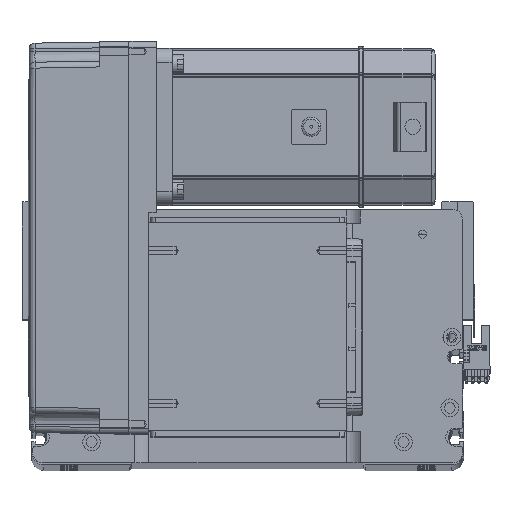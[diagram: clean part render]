
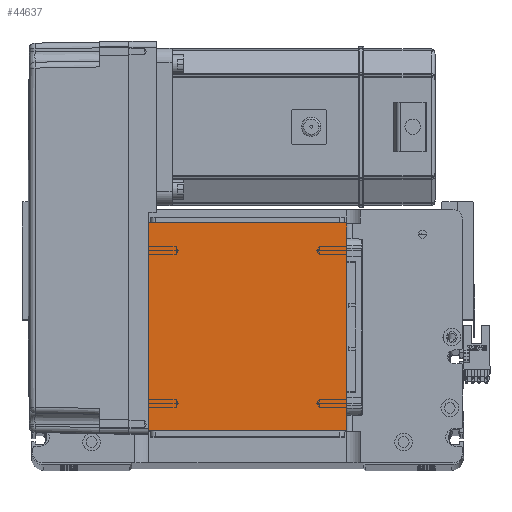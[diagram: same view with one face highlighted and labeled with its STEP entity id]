
A CAD part, top view. The second image highlights one B-rep face of the part: STEP entity #44637.
In plain terms, the highlighted planar face has unit normal (0, 0, 1).
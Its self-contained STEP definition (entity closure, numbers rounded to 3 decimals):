
#2134 = ORIENTED_EDGE ( 'NONE', *, *, #51821, .T. ) ;
#2508 = CARTESIAN_POINT ( 'NONE',  ( -50.5, 122., 115. ) ) ;
#3297 = DIRECTION ( 'NONE',  ( 0., 0., 1. ) ) ;
#7462 = EDGE_LOOP ( 'NONE', ( #20937, #2134, #21993, #34977 ) ) ;
#11493 = VERTEX_POINT ( 'NONE', #40656 ) ;
#14032 = LINE ( 'NONE', #27915, #47415 ) ;
#14936 = VECTOR ( 'NONE', #42336, 1000. ) ;
#17689 = LINE ( 'NONE', #21383, #42537 ) ;
#18059 = CARTESIAN_POINT ( 'NONE',  ( -50.5, 16., 115. ) ) ;
#18656 = VERTEX_POINT ( 'NONE', #18059 ) ;
#20937 = ORIENTED_EDGE ( 'NONE', *, *, #42386, .T. ) ;
#21383 = CARTESIAN_POINT ( 'NONE',  ( -50.5, 122., 115. ) ) ;
#21993 = ORIENTED_EDGE ( 'NONE', *, *, #53850, .T. ) ;
#24615 = CARTESIAN_POINT ( 'NONE',  ( 50.5, 122., 115. ) ) ;
#27357 = LINE ( 'NONE', #42879, #14936 ) ;
#27915 = CARTESIAN_POINT ( 'NONE',  ( 50.5, 122., 115. ) ) ;
#30600 = DIRECTION ( 'NONE',  ( -1., 0., 0. ) ) ;
#33076 = FACE_OUTER_BOUND ( 'NONE', #7462, .T. ) ;
#33385 = LINE ( 'NONE', #2508, #47149 ) ;
#34977 = ORIENTED_EDGE ( 'NONE', *, *, #42106, .T. ) ;
#37613 = VERTEX_POINT ( 'NONE', #37906 ) ;
#37906 = CARTESIAN_POINT ( 'NONE',  ( -50.5, 122., 115. ) ) ;
#37960 = VERTEX_POINT ( 'NONE', #24615 ) ;
#40656 = CARTESIAN_POINT ( 'NONE',  ( 50.5, 16., 115. ) ) ;
#40778 = CARTESIAN_POINT ( 'NONE',  ( 0., 0., 115. ) ) ;
#42106 = EDGE_CURVE ( 'NONE', #37960, #37613, #33385, .T. ) ;
#42336 = DIRECTION ( 'NONE',  ( 1., 0., 0. ) ) ;
#42386 = EDGE_CURVE ( 'NONE', #37613, #18656, #17689, .T. ) ;
#42537 = VECTOR ( 'NONE', #53693, 1000. ) ;
#42684 = AXIS2_PLACEMENT_3D ( 'NONE', #40778, #3297, #48678 ) ;
#42879 = CARTESIAN_POINT ( 'NONE',  ( -50.5, 16., 115. ) ) ;
#44637 = ADVANCED_FACE ( 'NONE', ( #33076 ), #52846, .T. ) ;
#47149 = VECTOR ( 'NONE', #30600, 1000. ) ;
#47415 = VECTOR ( 'NONE', #48790, 1000. ) ;
#48678 = DIRECTION ( 'NONE',  ( 1., 0., 0. ) ) ;
#48790 = DIRECTION ( 'NONE',  ( 0., 1., 0. ) ) ;
#51821 = EDGE_CURVE ( 'NONE', #18656, #11493, #27357, .T. ) ;
#52846 = PLANE ( 'NONE',  #42684 ) ;
#53693 = DIRECTION ( 'NONE',  ( 0., -1., 0. ) ) ;
#53850 = EDGE_CURVE ( 'NONE', #11493, #37960, #14032, .T. ) ;
